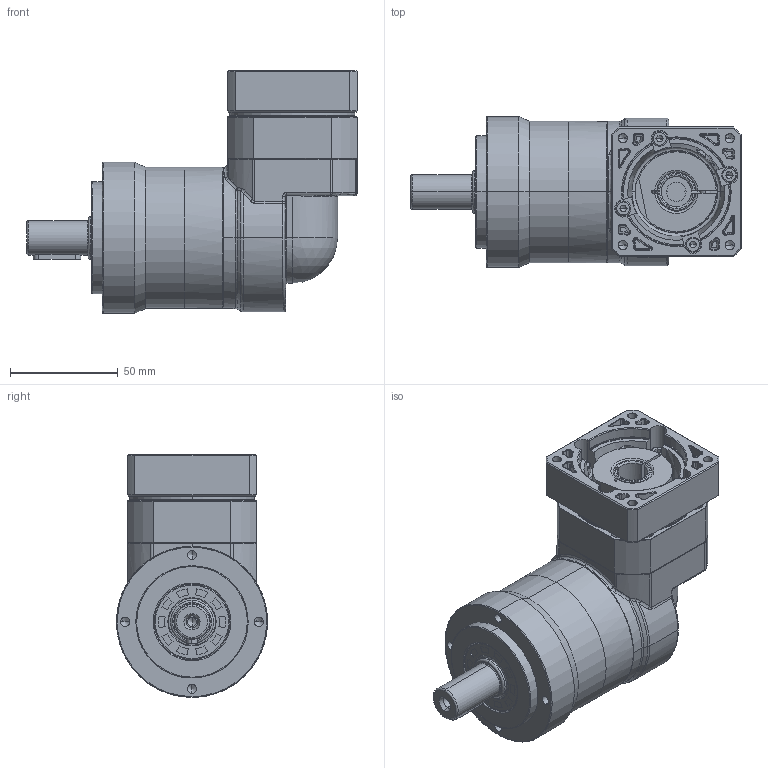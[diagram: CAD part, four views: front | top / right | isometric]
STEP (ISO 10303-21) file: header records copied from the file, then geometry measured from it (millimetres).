
FILE_DESCRIPTION (( 'STEP AP214' ), '1' );
FILE_NAME ('ERL070-L1-S2-P1 14-50-70-M5-33.STEP', '2025-02-14T07:04:13', ( '微软用户' ), ( '微软中国' ), 'SwSTEP 2.0', 'SolidWorks 2021', '' );
FILE_SCHEMA (( 'AUTOMOTIVE_DESIGN' ));
Length unit declared in the file: millimetre
Products named in the file (4): 3.EVT064F眻褒眊极_step_stp_stp.stp; ERL070-L1-S2-P1 14-50-70-M5-33; EVT060D-L2-8-38.1-66.7-M4-33; VRL070D-L1-S2-14-50-70-M4-33
Assembly tree (7 placements, depth 2):
  ERL070-L1-S2-P1 14-50-70-M5-33
    VRL070D-L1-S2-14-50-70-M4-33
    3.EVT064F眻褒眊极_step_stp_stp.stp
    EVT060D-L2-8-38.1-66.7-M4-33  x5
Bounding box: 153 x 70 x 112.5 mm (x, y, z)
Volume: 417376.5 mm3; surface area: 112819.6 mm2
Topology: 17 solids, 27 shells, 1416 faces, 3539 edges, 2188 vertices
Faces by surface type: cylinder 431, plane 378, cone 251, bspline 180, torus 172, sphere 4
Entity records: 70737 total; most frequent: CARTESIAN_POINT 27480, ORIENTED_EDGE 6263, DIRECTION 5711, EDGE_CURVE 3135, AXIS2_PLACEMENT_3D 2332, VERTEX_POINT 1971, EDGE_LOOP 1429, UNCERTAINTY_MEASURE_WITH_UNIT 1305
